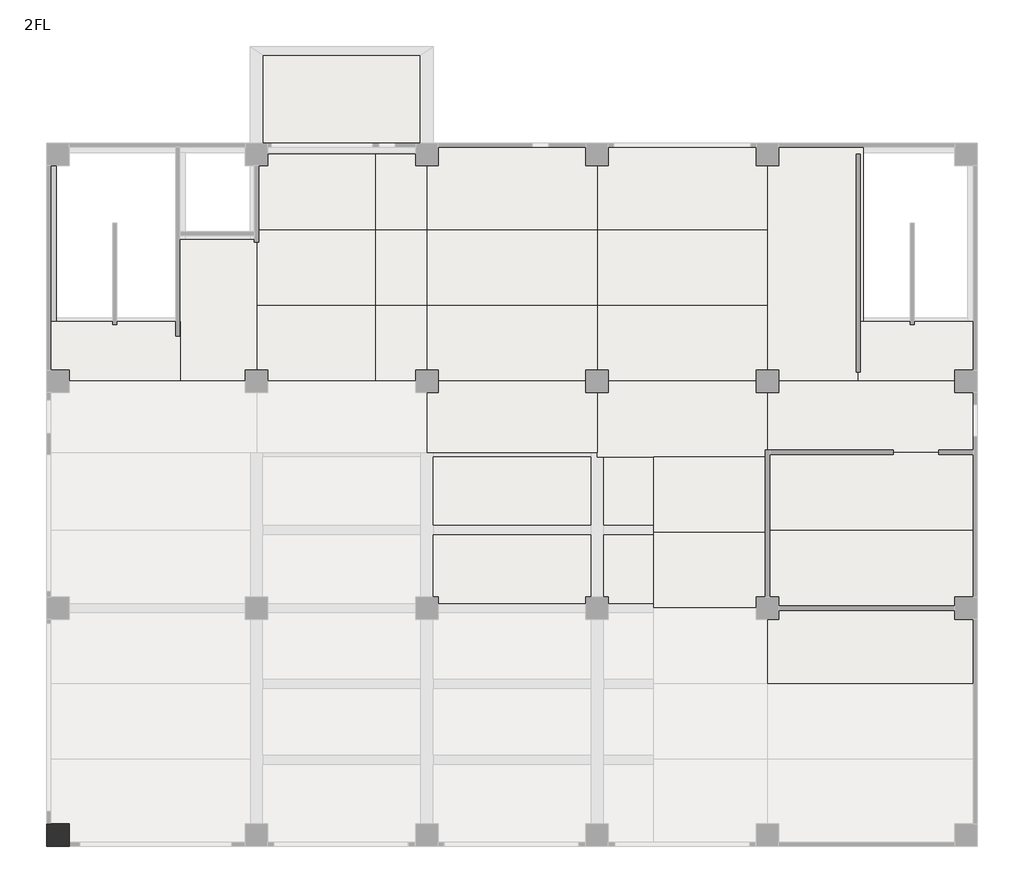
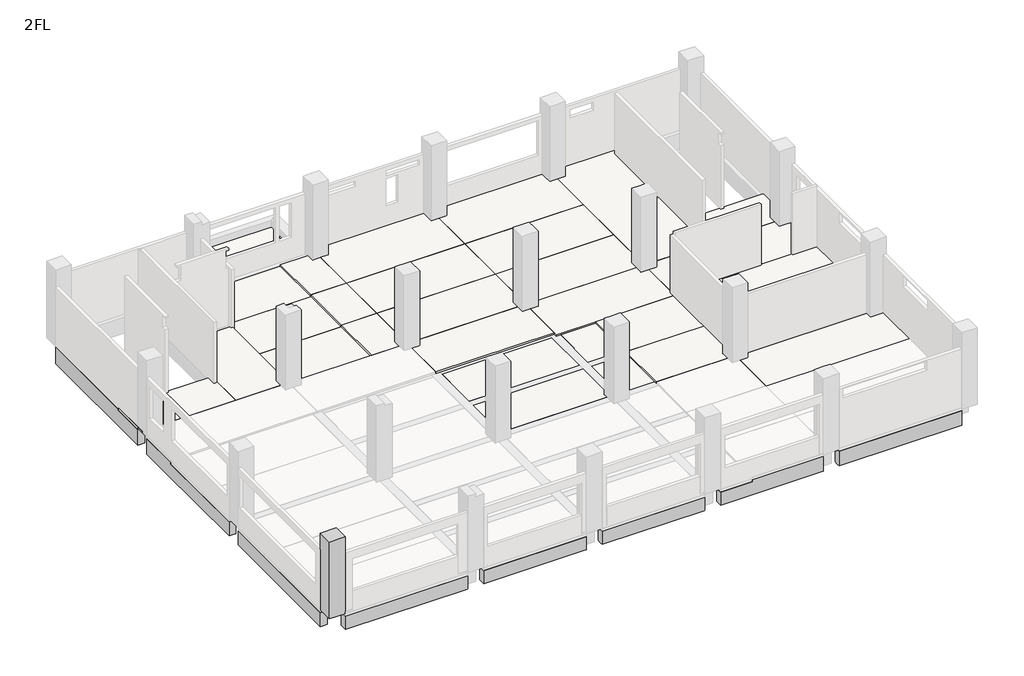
# One storey, part 2 of 4: 29 slabs, 9 beams, 1 column.
"""IFC4 building model written with IfcOpenShell, lengths in millimetres."""

from ifc_helpers import new_model, si_unit, frame, origin, place, context, project, spatial, polyline, outline, extrude, faceted_brep, element, save

model = new_model("IFC4")

# Units and contexts
model_context = context("Model", 3, world=origin())
ifc_project = project(units=[si_unit("LENGTHUNIT", "METRE", prefix="MILLI")], contexts=[model_context])

# Site, building, storey
site = spatial("IfcSite", under=ifc_project)
building = spatial("IfcBuilding", under=site)
storey = spatial("IfcBuildingStorey", under=building, Name="2FL", Elevation=4100.0)

# Beams
placement = place(None, origin())
element("IfcBeam", 1, ObjectType="RC_B : 2G1", at=placement, inside=storey, context=model_context, shape_type="Brep", body=[
    faceted_brep([(6600.0, -50.0, 3150.0), (400.0, -50.0, 3150.0), (400.0, -50.0, 3850.0), (6600.0, -50.0, 3850.0), (6600.0, -400.0, 3150.0), (6575.0, -400.0, 3150.0), (425.0, -400.0, 3150.0), (400.0, -400.0, 3150.0), (6600.0, -400.0, 3850.0), (400.0, -400.0, 3850.0)], [[[0, 1, 2, 3]], [[0, 4, 5, 6, 7, 1]], [[7, 6, 5, 4, 8, 9]], [[4, 0, 3, 8]], [[1, 7, 9, 2]], [[3, 2, 9, 8]]]),
])
element("IfcBeam", 2, ObjectType="RC_B : 2G1", at=placement, inside=storey, context=model_context, shape_type="Brep", body=[
    faceted_brep([(12600.0, -50.0, 3150.0), (7400.0, -50.0, 3150.0), (7400.0, -50.0, 3850.0), (12600.0, -50.0, 3850.0), (12600.0, -400.0, 3150.0), (12575.0, -400.0, 3150.0), (7400.0, -400.0, 3150.0), (7400.0, -250.0, 3150.0), (12600.0, -400.0, 3850.0), (7400.0, -400.0, 3850.0)], [[[0, 1, 2, 3]], [[0, 4, 5, 6, 7, 1]], [[6, 5, 4, 8, 9]], [[4, 0, 3, 8]], [[1, 7, 6, 9, 2]], [[3, 2, 9, 8]]]),
])
element("IfcBeam", 3, ObjectType="RC_B : 2G1", at=placement, inside=storey, context=model_context, shape_type="Brep", body=[
    faceted_brep([(18600.0, -50.0, 3150.0), (13400.0, -50.0, 3150.0), (13400.0, -50.0, 3850.0), (18600.0, -50.0, 3850.0), (18600.0, -400.0, 3150.0), (18575.0, -400.0, 3150.0), (13400.0, -400.0, 3150.0), (13400.0, -250.0, 3150.0), (18600.0, -400.0, 3850.0), (13400.0, -400.0, 3850.0)], [[[0, 1, 2, 3]], [[0, 4, 5, 6, 7, 1]], [[6, 5, 4, 8, 9]], [[4, 0, 3, 8]], [[1, 7, 6, 9, 2]], [[3, 2, 9, 8]]]),
])
element("IfcBeam", 4, ObjectType="RC_B : 2G1", at=placement, inside=storey, context=model_context, shape_type="Brep", body=[
    faceted_brep([(24600.0, -50.0, 3150.0), (19400.0, -50.0, 3150.0), (19400.0, -50.0, 3850.0), (20998.0, -50.0, 3850.0), (20998.0, -50.0, 3940.0), (24600.0, -50.0, 3940.0), (24600.0, -400.0, 3150.0), (24575.0, -400.0, 3150.0), (19400.0, -400.0, 3150.0), (19400.0, -250.0, 3150.0), (24600.0, -400.0, 3940.0), (20998.0, -400.0, 3940.0), (20998.0, -400.0, 3850.0), (19400.0, -400.0, 3850.0)], [[[0, 1, 2, 3, 4, 5]], [[0, 6, 7, 8, 9, 1]], [[8, 7, 6, 10, 11, 12, 13]], [[6, 0, 5, 10]], [[1, 9, 8, 13, 2]], [[12, 3, 2, 13]], [[3, 12, 11, 4]], [[5, 4, 11, 10]]]),
])
element("IfcBeam", 5, ObjectType="RC_B : 2G1", at=placement, inside=storey, context=model_context, shape_type="Brep", body=[
    faceted_brep([(31600.0, -50.0, 3150.0), (25400.0, -50.0, 3150.0), (25400.0, -50.0, 3940.0), (31600.0, -50.0, 3940.0), (31600.0, -250.0, 3150.0), (31600.0, -400.0, 3150.0), (25400.0, -400.0, 3150.0), (25400.0, -250.0, 3150.0), (31600.0, -400.0, 3940.0), (25400.0, -400.0, 3940.0)], [[[0, 1, 2, 3]], [[0, 4, 5, 6, 7, 1]], [[6, 5, 8, 9]], [[5, 4, 0, 3, 8]], [[1, 7, 6, 9, 2]], [[3, 2, 9, 8]]]),
])
element("IfcBeam", 6, ObjectType="RC_B : 2G11", at=placement, inside=storey, context=model_context, shape_type="Brep", body=[
    faceted_brep([(-400.0, 7600.0, 3100.0), (-400.0, 400.0, 3100.0), (-400.0, 400.0, 3850.0), (-400.0, 2664.0, 3850.0), (-400.0, 5328.0, 3850.0), (-400.0, 7600.0, 3850.0), (-250.0, 7600.0, 3100.0), (-50.0, 7600.0, 3100.0), (-50.0, 400.0, 3100.0), (-250.0, 400.0, 3100.0), (-50.0, 7600.0, 3850.0), (-50.0, 5505.0, 3850.0), (-50.0, 5155.0, 3850.0), (-50.0, 2835.0, 3850.0), (-50.0, 2485.0, 3850.0), (-50.0, 400.0, 3850.0)], [[[0, 1, 2, 3, 4, 5]], [[0, 6, 7, 8, 9, 1]], [[8, 7, 10, 11, 12, 13, 14, 15]], [[7, 6, 0, 5, 10]], [[1, 9, 8, 15, 2]], [[2, 15, 14, 13, 12, 11, 10, 5, 4, 3]]]),
])
element("IfcBeam", 7, ObjectType="RC_B : 2G11", at=placement, inside=storey, context=model_context, shape_type="Brep", body=[
    faceted_brep([(-400.0, 15600.0, 3940.0), (-400.0, 15600.0, 3100.0), (-400.0, 15292.5, 3100.0), (-400.0, 14112.5, 3100.0), (-400.0, 8400.0, 3100.0), (-400.0, 8400.0, 3850.0), (-400.0, 10748.0, 3850.0), (-400.0, 13496.0, 3850.0), (-400.0, 13496.0, 3940.0), (-250.0, 15600.0, 3100.0), (-50.0, 15600.0, 3100.0), (-50.0, 8400.0, 3100.0), (-250.0, 8400.0, 3100.0), (-50.0, 15600.0, 3940.0), (-50.0, 13675.0, 3940.0), (-50.0, 13496.0, 3940.0), (-50.0, 13496.0, 3850.0), (-50.0, 13325.0, 3850.0), (-50.0, 10925.0, 3850.0), (-50.0, 10575.0, 3850.0), (-50.0, 8400.0, 3850.0)], [[[0, 1, 2, 3, 4, 5, 6, 7, 8]], [[1, 9, 10, 11, 12, 4, 3, 2]], [[10, 13, 14, 15, 16, 17, 18, 19, 20, 11]], [[10, 9, 1, 0, 13]], [[0, 8, 15, 14, 13]], [[4, 12, 11, 20, 5]], [[16, 7, 6, 5, 20, 19, 18, 17]], [[7, 16, 15, 8]]]),
])
element("IfcBeam", 8, ObjectType="RC_B : 2G11", at=placement, inside=storey, context=model_context, shape_type="Brep", body=[
    faceted_brep([(-400.0, 23600.0, 4000.0), (-400.0, 23600.0, 3100.0), (-400.0, 16400.0, 3100.0), (-400.0, 16400.0, 3940.0), (-400.0, 18100.0, 3940.0), (-400.0, 18100.0, 4000.0), (-250.0, 23600.0, 3100.0), (-50.0, 23600.0, 3100.0), (-50.0, 16400.0, 3100.0), (-250.0, 16400.0, 3100.0), (-50.0, 23600.0, 4000.0), (-50.0, 18225.0, 4000.0), (-50.0, 18100.0, 4000.0), (-50.0, 18100.0, 3940.0), (-50.0, 17975.0, 3940.0), (-50.0, 16400.0, 3940.0), (-250.0, 23600.0, 4000.0), (-250.0, 18100.0, 4000.0)], [[[0, 1, 2, 3, 4, 5]], [[1, 6, 7, 8, 9, 2]], [[7, 10, 11, 12, 13, 14, 15, 8]], [[10, 16, 0, 5, 17, 12, 11]], [[1, 0, 16, 10, 7, 6]], [[13, 4, 3, 15, 14]], [[4, 13, 12, 17, 5]], [[3, 2, 9, 8, 15]]]),
])
element("IfcBeam", 9, ObjectType="RC_B : B1", at=placement, inside=storey, context=model_context, shape_type="Brep", body=[
    faceted_brep([(6775.0, 2835.0, 3250.0), (-50.0, 2835.0, 3250.0), (-50.0, 2835.0, 3850.0), (6775.0, 2835.0, 3850.0), (6775.0, 2485.0, 3250.0), (-50.0, 2485.0, 3250.0), (6775.0, 2485.0, 3850.0), (-50.0, 2485.0, 3850.0), (6775.0, 2664.0, 3850.0)], [[[0, 1, 2, 3]], [[0, 4, 5, 1]], [[5, 4, 6, 7]], [[4, 0, 3, 8, 6]], [[1, 5, 7, 2]], [[3, 2, 7, 6, 8]]]),
])

# Column
element("IfcColumn", 10, ObjectType="RC_C_B : 2C2", at=placement, inside=storey, context=model_context, shape_type="Brep", body=[
    faceted_brep([(400.0, 400.0, 4000.0), (400.0, -250.0, 4000.0), (400.0, -400.0, 4000.0), (-400.0, -400.0, 4000.0), (-400.0, 400.0, 4000.0), (-250.0, 400.0, 4000.0), (400.0, 400.0, 8100.0), (400.0, -400.0, 8100.0), (400.0, -400.0, 7950.0), (400.0, -400.0, 7250.0), (400.0, -400.0, 4100.0), (400.0, 400.0, 7950.0), (-400.0, -400.0, 8100.0), (-400.0, 400.0, 8100.0), (-400.0, 400.0, 7950.0), (-400.0, 400.0, 7200.0)], [[[0, 1, 2, 3, 4, 5]], [[6, 7, 8, 9, 10, 2, 1, 0, 11]], [[7, 12, 3, 2, 10, 9, 8]], [[12, 13, 14, 15, 4, 3]], [[13, 6, 11, 0, 5, 4, 15, 14]], [[6, 13, 12, 7]]]),
])

# Slabs
element("IfcSlab", 11, ObjectType="S1", at=placement, inside=storey, context=model_context, shape_type="Brep", body=[
    faceted_brep([(32400.0, 5328.0, 3940.0), (25000.0, 5328.0, 3940.0), (25000.0, 5505.0, 3940.0), (25000.0, 7600.0, 3940.0), (25225.0, 7600.0, 3940.0), (25400.0, 7600.0, 3940.0), (25400.0, 8000.0, 3940.0), (31600.0, 8000.0, 3940.0), (31600.0, 7825.0, 3940.0), (31600.0, 7600.0, 3940.0), (32050.0, 7600.0, 3940.0), (32400.0, 7600.0, 3940.0), (25000.0, 5328.0, 4090.0), (32400.0, 5328.0, 4090.0), (32400.0, 7600.0, 4090.0), (32250.0, 7600.0, 4090.0), (31600.0, 7600.0, 4090.0), (31600.0, 8000.0, 4090.0), (25400.0, 8000.0, 4090.0), (25400.0, 7600.0, 4090.0), (25000.0, 7600.0, 4090.0), (25000.0, 5333.0, 4090.0), (32400.0, 7600.0, 4000.0), (25400.0, 7600.0, 4000.0), (31600.0, 7600.0, 4000.0)], [[[0, 1, 2, 3, 4, 5, 6, 7, 8, 9, 10, 11]], [[12, 13, 14, 15, 16, 17, 18, 19, 20, 21]], [[13, 0, 11, 22, 14]], [[1, 0, 13, 12]], [[1, 12, 21, 20, 3, 2]], [[6, 18, 17, 7]], [[6, 5, 23, 19, 18]], [[5, 4, 3, 20, 19, 23]], [[16, 15, 14, 22, 11, 10, 9, 24]], [[16, 24, 9, 8, 7, 17]]]),
])
element("IfcSlab", 12, ObjectType="S1", at=placement, inside=storey, context=model_context, shape_type="Brep", body=[
    faceted_brep([(25400.0, 16000.0, 3940.0), (25400.0, 16400.0, 3940.0), (25000.0, 16400.0, 3940.0), (25000.0, 18495.0, 3940.0), (25000.0, 18845.0, 3940.0), (25000.0, 21328.0, 3940.0), (25000.0, 23600.0, 3940.0), (25225.0, 23600.0, 3940.0), (25400.0, 23600.0, 3940.0), (25400.0, 24050.0, 3940.0), (25400.0, 24400.0, 3940.0), (28374.0, 24400.0, 3940.0), (28374.0, 24050.0, 3940.0), (28374.0, 18100.0, 3940.0), (28199.0, 18100.0, 3940.0), (28199.0, 16087.7, 3940.0), (28199.0, 16000.0, 3940.0), (28374.0, 24400.0, 4090.0), (25400.0, 24400.0, 4090.0), (25000.0, 24400.0, 4090.0), (25000.0, 21328.0, 4090.0), (25000.0, 18664.0, 4090.0), (25000.0, 16400.0, 4090.0), (25400.0, 16400.0, 4090.0), (25400.0, 16000.0, 4090.0), (28199.0, 16000.0, 4090.0), (28199.0, 18100.0, 4090.0), (28374.0, 18100.0, 4090.0), (28374.0, 24250.0, 4090.0), (25000.0, 24400.0, 4000.0), (25000.0, 23600.0, 4000.0), (28374.0, 24400.0, 4000.0), (25400.0, 24400.0, 4000.0), (28374.0, 18100.0, 4000.0), (25400.0, 16400.0, 4000.0), (25400.0, 23600.0, 4000.0), (28199.0, 18100.0, 4000.0)], [[[0, 1, 2, 3, 4, 5, 6, 7, 8, 9, 10, 11, 12, 13, 14, 15, 16]], [[17, 18, 19, 20, 21, 22, 23, 24, 25, 26, 27, 28]], [[24, 0, 16, 25]], [[22, 21, 20, 19, 29, 30, 6, 5, 4, 3, 2]], [[19, 18, 17, 31, 11, 10, 32, 29]], [[11, 31, 17, 28, 27, 33, 13, 12]], [[1, 0, 24, 23, 34]], [[2, 1, 34, 23, 22]], [[35, 32, 10, 9, 8]], [[35, 8, 7, 6, 30]], [[32, 35, 30, 29]], [[14, 36, 26, 25, 16, 15]], [[26, 36, 14, 13, 33, 27]]]),
])
element("IfcSlab", 13, ObjectType="S1", at=placement, inside=storey, context=model_context, shape_type="Brep", body=[
    faceted_brep([(19400.0, 8175.0, 3850.0), (19400.0, 8400.0, 3850.0), (19225.0, 8400.0, 3850.0), (19225.0, 10575.0, 3850.0), (20998.0, 10575.0, 3850.0), (20998.0, 8175.0, 3850.0), (19400.0, 8400.0, 4000.0), (19400.0, 8175.0, 4000.0), (20998.0, 8175.0, 4000.0), (20998.0, 10575.0, 4000.0), (19225.0, 10575.0, 4000.0), (19225.0, 8400.0, 4000.0), (20998.0, 8175.0, 3940.0)], [[[0, 1, 2, 3, 4, 5]], [[6, 7, 8, 9, 10, 11]], [[8, 12, 5, 4, 9]], [[6, 1, 0, 7]], [[1, 6, 11, 2]], [[0, 5, 12, 8, 7]], [[2, 11, 10, 3]], [[4, 3, 10, 9]]]),
])
element("IfcSlab", 14, ObjectType="S1", at=placement, inside=storey, context=model_context, shape_type="Brep", body=[
    faceted_brep([(24600.0, 8000.0, 3940.0), (20998.0, 8000.0, 3940.0), (20998.0, 8175.0, 3940.0), (20998.0, 10575.0, 3940.0), (24775.0, 10575.0, 3940.0), (24912.3, 10575.0, 3940.0), (24912.3, 10664.0, 3940.0), (25000.0, 10664.0, 3940.0), (25000.0, 8400.0, 3940.0), (24600.0, 8400.0, 3940.0), (24600.0, 8175.0, 3940.0), (20998.0, 10664.0, 4090.0), (20998.0, 8000.0, 4090.0), (24600.0, 8000.0, 4090.0), (24600.0, 8400.0, 4090.0), (25000.0, 8400.0, 4090.0), (25000.0, 10664.0, 4090.0), (20998.0, 10664.0, 4000.0), (20998.0, 10575.0, 4000.0), (24912.3, 10664.0, 4000.0), (24600.0, 8400.0, 4000.0), (24912.3, 10575.0, 4000.0)], [[[0, 1, 2, 3, 4, 5, 6, 7, 8, 9, 10]], [[11, 12, 13, 14, 15, 16]], [[12, 1, 0, 13]], [[12, 11, 17, 18, 3, 2, 1]], [[11, 16, 7, 6, 19, 17]], [[7, 16, 15, 8]], [[0, 10, 9, 20, 14, 13]], [[9, 8, 15, 14, 20]], [[18, 21, 5, 4, 3]], [[21, 18, 17, 19]], [[5, 21, 19, 6]]]),
])
element("IfcSlab", 15, ObjectType="S1", at=placement, inside=storey, context=model_context, shape_type="Brep", body=[
    faceted_brep([(20998.0, 10925.0, 3850.0), (19225.0, 10925.0, 3850.0), (19225.0, 13325.0, 3850.0), (20998.0, 13325.0, 3850.0), (19225.0, 10925.0, 4000.0), (20998.0, 10925.0, 4000.0), (20998.0, 13325.0, 4000.0), (19225.0, 13325.0, 4000.0), (20998.0, 10925.0, 3940.0), (20998.0, 13325.0, 3940.0)], [[[0, 1, 2, 3]], [[4, 5, 6, 7]], [[5, 8, 0, 3, 9, 6]], [[1, 4, 7, 2]], [[1, 0, 8, 5, 4]], [[3, 2, 7, 6, 9]]]),
])
element("IfcSlab", 16, ObjectType="S1", at=placement, inside=storey, context=model_context, shape_type="Brep", body=[
    faceted_brep([(25000.0, 13328.0, 3940.0), (25000.0, 10748.0, 3940.0), (25000.0, 10664.0, 3940.0), (24912.3, 10664.0, 3940.0), (24912.3, 10925.0, 3940.0), (24775.0, 10925.0, 3940.0), (20998.0, 10925.0, 3940.0), (20998.0, 13325.0, 3940.0), (24775.0, 13325.0, 3940.0), (24912.3, 13325.0, 3940.0), (24912.3, 13328.0, 3940.0), (25000.0, 10664.0, 4090.0), (25000.0, 10748.0, 4090.0), (25000.0, 13328.0, 4090.0), (20998.0, 13328.0, 4090.0), (20998.0, 10664.0, 4090.0), (20998.0, 10664.0, 4000.0), (24912.3, 10664.0, 4000.0), (20998.0, 13328.0, 4000.0), (20998.0, 13325.0, 4000.0), (20998.0, 10925.0, 4000.0), (24912.3, 13328.0, 4000.0), (24912.3, 10925.0, 4000.0), (24912.3, 13325.0, 4000.0)], [[[0, 1, 2, 3, 4, 5, 6, 7, 8, 9, 10]], [[11, 12, 13, 14, 15]], [[2, 1, 0, 13, 12, 11]], [[11, 15, 16, 17, 3, 2]], [[15, 14, 18, 19, 7, 6, 20, 16]], [[14, 13, 0, 10, 21, 18]], [[6, 5, 4, 22, 20]], [[19, 23, 9, 8, 7]], [[17, 16, 20, 22]], [[23, 19, 18, 21]], [[22, 4, 3, 17]], [[9, 23, 21, 10]]]),
])
element("IfcSlab", 17, ObjectType="S1", at=placement, inside=storey, context=model_context, shape_type="Brep", body=[
    faceted_brep([(25000.0, 10748.0, 3940.0), (32400.0, 10748.0, 3940.0), (32400.0, 8400.0, 3940.0), (32050.0, 8400.0, 3940.0), (31600.0, 8400.0, 3940.0), (31600.0, 8175.0, 3940.0), (31600.0, 8000.0, 3940.0), (25400.0, 8000.0, 3940.0), (25400.0, 8400.0, 3940.0), (25000.0, 8400.0, 3940.0), (25000.0, 10664.0, 3940.0), (32400.0, 10748.0, 4090.0), (25000.0, 10748.0, 4090.0), (25000.0, 10664.0, 4090.0), (25000.0, 8400.0, 4090.0), (25400.0, 8400.0, 4090.0), (25400.0, 8000.0, 4090.0), (31600.0, 8000.0, 4090.0), (31600.0, 8400.0, 4090.0), (32250.0, 8400.0, 4090.0), (32400.0, 8400.0, 4090.0), (32400.0, 8400.0, 4000.0), (25400.0, 8400.0, 4000.0), (31600.0, 8400.0, 4000.0)], [[[0, 1, 2, 3, 4, 5, 6, 7, 8, 9, 10]], [[11, 12, 13, 14, 15, 16, 17, 18, 19, 20]], [[16, 7, 6, 17]], [[12, 0, 10, 9, 14, 13]], [[1, 0, 12, 11]], [[1, 11, 20, 21, 2]], [[8, 7, 16, 15, 22]], [[9, 8, 22, 15, 14]], [[18, 17, 6, 5, 4, 23]], [[18, 23, 4, 3, 2, 21, 20, 19]]]),
])
element("IfcSlab", 18, ObjectType="S1", at=placement, inside=storey, context=model_context, shape_type="Brep", body=[
    faceted_brep([(32400.0, 13496.0, 3940.0), (32400.0, 10748.0, 3940.0), (25000.0, 10748.0, 3940.0), (25000.0, 13328.0, 3940.0), (25000.0, 13496.0, 3940.0), (32400.0, 13496.0, 4090.0), (25000.0, 13496.0, 4090.0), (25000.0, 13328.0, 4090.0), (25000.0, 10748.0, 4090.0), (32400.0, 10748.0, 4090.0)], [[[0, 1, 2, 3, 4]], [[5, 6, 7, 8, 9]], [[1, 0, 5, 9]], [[2, 1, 9, 8]], [[4, 3, 2, 8, 7, 6]], [[0, 4, 6, 5]]]),
])
element("IfcSlab", 19, ObjectType="S2", at=placement, inside=storey, context=model_context, shape_type="Brep", body=[
    faceted_brep([(13400.0, 15600.0, 3940.0), (13400.0, 16000.0, 3940.0), (18600.0, 16000.0, 3940.0), (18600.0, 15825.0, 3940.0), (18600.0, 15600.0, 3940.0), (18775.0, 15600.0, 3940.0), (18775.0, 13675.0, 3940.0), (13225.0, 13675.0, 3940.0), (13225.0, 15600.0, 3940.0), (13000.0, 13496.0, 4090.0), (19000.0, 13496.0, 4090.0), (19000.0, 15600.0, 4090.0), (18600.0, 15600.0, 4090.0), (18600.0, 16000.0, 4090.0), (13400.0, 16000.0, 4090.0), (13400.0, 15600.0, 4090.0), (13000.0, 15600.0, 4090.0), (19000.0, 13496.0, 4000.0), (19000.0, 15600.0, 4000.0), (13000.0, 13496.0, 4000.0), (13000.0, 15600.0, 4000.0), (13400.0, 16000.0, 4000.0), (18600.0, 16000.0, 4000.0), (13400.0, 15600.0, 4000.0), (13225.0, 15600.0, 4000.0), (18775.0, 15600.0, 4000.0), (18600.0, 15600.0, 4000.0), (18775.0, 13675.0, 4000.0), (13225.0, 13675.0, 4000.0)], [[[0, 1, 2, 3, 4, 5, 6, 7, 8]], [[9, 10, 11, 12, 13, 14, 15, 16]], [[11, 10, 17, 18]], [[10, 9, 19, 17]], [[9, 16, 20, 19]], [[1, 21, 14, 13, 22, 2]], [[1, 0, 23, 15, 14, 21]], [[16, 15, 23, 0, 8, 24, 20]], [[12, 11, 18, 25, 5, 4, 26]], [[4, 3, 2, 22, 13, 12, 26]], [[6, 27, 28, 7]], [[20, 24, 28, 27, 25, 18, 17, 19]], [[25, 27, 6, 5]], [[28, 24, 8, 7]]]),
])
element("IfcSlab", 20, ObjectType="S2", at=placement, inside=storey, context=model_context, shape_type="Brep", body=[
    faceted_brep([(19400.0, 15600.0, 3940.0), (19400.0, 16000.0, 3940.0), (24600.0, 16000.0, 3940.0), (24600.0, 15825.0, 3940.0), (24600.0, 15600.0, 3940.0), (24775.0, 15600.0, 3940.0), (25000.0, 15600.0, 3940.0), (25000.0, 13496.0, 3940.0), (25000.0, 13328.0, 3940.0), (24912.3, 13328.0, 3940.0), (24912.3, 13675.0, 3940.0), (24775.0, 13675.0, 3940.0), (19225.0, 13675.0, 3940.0), (19225.0, 15600.0, 3940.0), (19000.0, 13328.0, 4090.0), (20998.0, 13328.0, 4090.0), (25000.0, 13328.0, 4090.0), (25000.0, 13496.0, 4090.0), (25000.0, 15600.0, 4090.0), (24600.0, 15600.0, 4090.0), (24600.0, 16000.0, 4090.0), (19400.0, 16000.0, 4090.0), (19400.0, 15600.0, 4090.0), (19000.0, 15600.0, 4090.0), (19000.0, 13496.0, 4090.0), (19000.0, 13328.0, 4000.0), (20998.0, 13328.0, 4000.0), (24912.3, 13328.0, 4000.0), (19000.0, 15600.0, 4000.0), (19000.0, 13496.0, 4000.0), (19400.0, 15600.0, 4000.0), (19225.0, 15600.0, 4000.0), (24600.0, 15600.0, 4000.0), (24912.3, 13675.0, 4000.0), (19225.0, 13675.0, 4000.0)], [[[0, 1, 2, 3, 4, 5, 6, 7, 8, 9, 10, 11, 12, 13]], [[14, 15, 16, 17, 18, 19, 20, 21, 22, 23, 24]], [[16, 8, 7, 6, 18, 17]], [[16, 15, 14, 25, 26, 27, 9, 8]], [[14, 24, 23, 28, 29, 25]], [[1, 21, 20, 2]], [[1, 0, 30, 22, 21]], [[23, 22, 30, 0, 13, 31, 28]], [[6, 5, 4, 32, 19, 18]], [[4, 3, 2, 20, 19, 32]], [[10, 33, 34, 12, 11]], [[28, 31, 34, 33, 27, 26, 25, 29]], [[33, 10, 9, 27]], [[34, 31, 13, 12]]]),
])
element("IfcSlab", 21, ObjectType="S2", at=placement, inside=storey, context=model_context, shape_type="Brep", body=[
    faceted_brep([(32400.0, 13496.0, 3940.0), (25000.0, 13496.0, 3940.0), (25000.0, 15600.0, 3940.0), (25225.0, 15600.0, 3940.0), (25400.0, 15600.0, 3940.0), (25400.0, 16000.0, 3940.0), (28199.0, 16000.0, 3940.0), (31600.0, 16000.0, 3940.0), (31600.0, 15825.0, 3940.0), (31600.0, 15600.0, 3940.0), (32050.0, 15600.0, 3940.0), (32400.0, 15600.0, 3940.0), (25000.0, 13496.0, 4090.0), (32400.0, 13496.0, 4090.0), (32400.0, 15600.0, 4090.0), (32250.0, 15600.0, 4090.0), (31600.0, 15600.0, 4090.0), (31600.0, 16000.0, 4090.0), (28199.0, 16000.0, 4090.0), (25400.0, 16000.0, 4090.0), (25400.0, 15600.0, 4090.0), (25000.0, 15600.0, 4090.0), (32400.0, 15600.0, 4000.0), (25400.0, 15600.0, 4000.0), (31600.0, 15600.0, 4000.0)], [[[0, 1, 2, 3, 4, 5, 6, 7, 8, 9, 10, 11]], [[12, 13, 14, 15, 16, 17, 18, 19, 20, 21]], [[13, 0, 11, 22, 14]], [[1, 0, 13, 12]], [[1, 12, 21, 2]], [[5, 19, 18, 17, 7, 6]], [[5, 4, 23, 20, 19]], [[4, 3, 2, 21, 20, 23]], [[16, 15, 14, 22, 11, 10, 9, 24]], [[16, 24, 9, 8, 7, 17]]]),
])
element("IfcSlab", 22, ObjectType="S2", at=placement, inside=storey, context=model_context, shape_type="Brep", body=[
    faceted_brep([(7000.0, 18664.0, 3850.0), (11200.0, 18664.0, 3850.0), (11200.0, 18495.0, 3850.0), (11200.0, 16175.0, 3850.0), (11200.0, 16000.0, 3850.0), (7400.0, 16000.0, 3850.0), (7400.0, 16400.0, 3850.0), (7000.0, 16400.0, 3850.0), (11200.0, 18664.0, 4000.0), (7000.0, 18664.0, 4000.0), (7000.0, 16400.0, 4000.0), (7400.0, 16400.0, 4000.0), (7400.0, 16000.0, 4000.0), (11200.0, 16000.0, 4000.0), (11200.0, 16000.0, 3940.0), (7400.0, 16000.0, 3940.0), (7000.0, 16400.0, 3940.0), (11200.0, 18664.0, 3940.0)], [[[0, 1, 2, 3, 4, 5, 6, 7]], [[8, 9, 10, 11, 12, 13]], [[4, 14, 13, 12, 15, 5]], [[9, 0, 7, 16, 10]], [[1, 0, 9, 8, 17]], [[4, 3, 2, 1, 17, 8, 13, 14]], [[11, 6, 5, 15, 12]], [[6, 11, 10, 16, 7]]]),
])
element("IfcSlab", 23, ObjectType="S2", at=placement, inside=storey, context=model_context, shape_type="Brep", body=[
    faceted_brep([(13000.0, 21328.0, 3940.0), (13000.0, 18664.0, 3940.0), (11200.0, 18664.0, 3940.0), (11200.0, 18845.0, 3940.0), (11200.0, 21165.0, 3940.0), (11200.0, 21328.0, 3940.0), (13000.0, 21328.0, 4090.0), (11200.0, 21328.0, 4090.0), (11200.0, 18664.0, 4090.0), (13000.0, 18664.0, 4090.0), (13000.0, 21328.0, 4000.0), (13000.0, 18664.0, 4000.0), (11200.0, 18664.0, 4000.0), (11200.0, 21328.0, 4000.0)], [[[0, 1, 2, 3, 4, 5]], [[6, 7, 8, 9]], [[1, 0, 10, 6, 9, 11]], [[2, 1, 11, 9, 8, 12]], [[5, 4, 3, 2, 12, 8, 7, 13]], [[0, 5, 13, 7, 6, 10]]]),
])
element("IfcSlab", 24, ObjectType="S2", at=placement, inside=storey, context=model_context, shape_type="Brep", body=[
    faceted_brep([(13000.0, 21328.0, 3940.0), (11200.0, 21328.0, 3940.0), (11200.0, 21515.0, 3940.0), (11200.0, 24000.0, 3940.0), (12600.0, 24000.0, 3940.0), (12600.0, 23600.0, 3940.0), (12775.0, 23600.0, 3940.0), (13000.0, 23600.0, 3940.0), (11200.0, 21328.0, 4090.0), (13000.0, 21328.0, 4090.0), (13000.0, 23600.0, 4090.0), (12600.0, 23600.0, 4090.0), (12600.0, 24000.0, 4090.0), (11200.0, 24000.0, 4090.0), (13000.0, 21328.0, 4000.0), (13000.0, 23600.0, 4000.0), (11200.0, 21328.0, 4000.0), (11200.0, 24000.0, 4000.0), (12600.0, 23600.0, 4000.0)], [[[0, 1, 2, 3, 4, 5, 6, 7]], [[8, 9, 10, 11, 12, 13]], [[9, 14, 0, 7, 15, 10]], [[1, 0, 14, 9, 8, 16]], [[3, 2, 1, 16, 8, 13, 17]], [[3, 17, 13, 12, 4]], [[11, 10, 15, 7, 6, 5, 18]], [[11, 18, 5, 4, 12]]]),
])
element("IfcSlab", 25, ObjectType="S2", at=placement, inside=storey, context=model_context, shape_type="Brep", body=[
    faceted_brep([(18600.0, 16400.0, 3940.0), (18600.0, 16175.0, 3940.0), (13400.0, 16175.0, 3940.0), (13400.0, 16400.0, 3940.0), (13225.0, 16400.0, 3940.0), (13225.0, 18495.0, 3940.0), (18775.0, 18495.0, 3940.0), (18775.0, 16400.0, 3940.0), (19000.0, 18664.0, 4090.0), (13000.0, 18664.0, 4090.0), (13000.0, 16400.0, 4090.0), (13400.0, 16400.0, 4090.0), (13400.0, 16000.0, 4090.0), (18600.0, 16000.0, 4090.0), (18600.0, 16400.0, 4090.0), (19000.0, 16400.0, 4090.0), (13400.0, 16000.0, 4000.0), (18600.0, 16000.0, 4000.0), (13000.0, 18664.0, 4000.0), (13000.0, 16400.0, 4000.0), (19000.0, 18664.0, 4000.0), (19000.0, 16400.0, 4000.0), (13400.0, 16175.0, 4000.0), (13400.0, 16400.0, 4000.0), (13225.0, 16400.0, 4000.0), (18600.0, 16400.0, 4000.0), (18600.0, 16175.0, 4000.0), (18775.0, 16400.0, 4000.0), (13225.0, 18495.0, 4000.0), (18775.0, 18495.0, 4000.0)], [[[0, 1, 2, 3, 4, 5, 6, 7]], [[8, 9, 10, 11, 12, 13, 14, 15]], [[16, 17, 13, 12]], [[10, 9, 18, 19]], [[9, 8, 20, 18]], [[8, 15, 21, 20]], [[3, 2, 22, 16, 12, 11, 23]], [[4, 3, 23, 11, 10, 19, 24]], [[1, 0, 25, 14, 13, 17, 26]], [[0, 7, 27, 21, 15, 14, 25]], [[2, 1, 26, 22]], [[17, 16, 22, 26]], [[4, 24, 28, 5]], [[21, 27, 29, 28, 24, 19, 18, 20]], [[27, 7, 6, 29]], [[28, 29, 6, 5]]]),
])
element("IfcSlab", 26, ObjectType="S2", at=placement, inside=storey, context=model_context, shape_type="Brep", body=[
    faceted_brep([(18775.0, 18845.0, 3940.0), (13225.0, 18845.0, 3940.0), (13225.0, 21165.0, 3940.0), (18775.0, 21165.0, 3940.0), (19000.0, 18664.0, 4090.0), (19000.0, 21328.0, 4090.0), (13000.0, 21328.0, 4090.0), (13000.0, 18664.0, 4090.0), (19000.0, 18664.0, 4000.0), (19000.0, 21328.0, 4000.0), (13000.0, 18664.0, 4000.0), (13000.0, 21328.0, 4000.0), (13225.0, 18845.0, 4000.0), (13225.0, 21165.0, 4000.0), (18775.0, 18845.0, 4000.0), (18775.0, 21165.0, 4000.0)], [[[0, 1, 2, 3]], [[4, 5, 6, 7]], [[5, 4, 8, 9]], [[4, 7, 10, 8]], [[7, 6, 11, 10]], [[6, 5, 9, 11]], [[1, 12, 13, 2]], [[8, 10, 11, 9], [14, 15, 13, 12]], [[14, 0, 3, 15]], [[1, 0, 14, 12]], [[13, 15, 3, 2]]]),
])
element("IfcSlab", 27, ObjectType="S2", at=placement, inside=storey, context=model_context, shape_type="Brep", body=[
    faceted_brep([(13400.0, 23600.0, 3940.0), (13400.0, 24050.0, 3940.0), (13400.0, 24400.0, 3940.0), (18600.0, 24400.0, 3940.0), (18600.0, 24050.0, 3940.0), (18600.0, 23600.0, 3940.0), (18775.0, 23600.0, 3940.0), (18775.0, 21515.0, 3940.0), (13225.0, 21515.0, 3940.0), (13225.0, 23600.0, 3940.0), (19000.0, 21328.0, 4090.0), (19000.0, 24400.0, 4090.0), (18600.0, 24400.0, 4090.0), (13400.0, 24400.0, 4090.0), (13000.0, 24400.0, 4090.0), (13000.0, 23600.0, 4090.0), (13000.0, 21328.0, 4090.0), (19000.0, 21328.0, 4000.0), (19000.0, 23600.0, 4000.0), (19000.0, 24400.0, 4000.0), (13000.0, 21328.0, 4000.0), (13000.0, 24400.0, 4000.0), (13000.0, 23600.0, 4000.0), (18600.0, 24400.0, 4000.0), (13400.0, 24400.0, 4000.0), (13400.0, 23600.0, 4000.0), (13225.0, 23600.0, 4000.0), (13225.0, 21515.0, 4000.0), (18775.0, 21515.0, 4000.0), (18775.0, 23600.0, 4000.0), (18600.0, 23600.0, 4000.0)], [[[0, 1, 2, 3, 4, 5, 6, 7, 8, 9]], [[10, 11, 12, 13, 14, 15, 16]], [[11, 10, 17, 18, 19]], [[10, 16, 20, 17]], [[16, 15, 14, 21, 22, 20]], [[14, 13, 12, 11, 19, 23, 3, 2, 24, 21]], [[25, 24, 2, 1, 0]], [[25, 0, 9, 26]], [[24, 25, 26, 27, 28, 29, 30, 23, 19, 18, 17, 20, 22, 21]], [[5, 30, 29, 6]], [[23, 30, 5, 4, 3]], [[26, 9, 8, 27]], [[6, 29, 28, 7]], [[28, 27, 8, 7]]]),
])
element("IfcSlab", 28, ObjectType="S2", at=placement, inside=storey, context=model_context, shape_type="Brep", body=[
    faceted_brep([(19400.0, 16000.0, 3940.0), (19400.0, 16400.0, 3940.0), (19225.0, 16400.0, 3940.0), (19225.0, 18495.0, 3940.0), (25000.0, 18495.0, 3940.0), (25000.0, 16400.0, 3940.0), (24600.0, 16400.0, 3940.0), (24600.0, 16175.0, 3940.0), (24600.0, 16000.0, 3940.0), (25000.0, 18664.0, 4090.0), (19000.0, 18664.0, 4090.0), (19000.0, 16400.0, 4090.0), (19400.0, 16400.0, 4090.0), (19400.0, 16000.0, 4090.0), (24600.0, 16000.0, 4090.0), (24600.0, 16400.0, 4090.0), (25000.0, 16400.0, 4090.0), (19000.0, 18664.0, 4000.0), (19000.0, 16400.0, 4000.0), (25000.0, 18664.0, 4000.0), (25000.0, 18495.0, 4000.0), (19400.0, 16400.0, 4000.0), (19225.0, 16400.0, 4000.0), (24600.0, 16400.0, 4000.0), (19225.0, 18495.0, 4000.0), (24775.0, 18495.0, 4000.0)], [[[0, 1, 2, 3, 4, 5, 6, 7, 8]], [[9, 10, 11, 12, 13, 14, 15, 16]], [[13, 0, 8, 14]], [[11, 10, 17, 18]], [[10, 9, 19, 17]], [[9, 16, 5, 4, 20, 19]], [[1, 0, 13, 12, 21]], [[12, 11, 18, 22, 2, 1, 21]], [[8, 7, 6, 23, 15, 14]], [[6, 5, 16, 15, 23]], [[20, 4, 3, 24, 25]], [[19, 20, 25, 24, 22, 18, 17]], [[22, 24, 3, 2]]]),
])
element("IfcSlab", 29, ObjectType="S2", at=placement, inside=storey, context=model_context, shape_type="Brep", body=[
    faceted_brep([(25000.0, 21328.0, 3940.0), (25000.0, 18845.0, 3940.0), (19225.0, 18845.0, 3940.0), (19225.0, 21165.0, 3940.0), (19225.0, 21328.0, 3940.0), (25000.0, 18664.0, 4090.0), (25000.0, 21328.0, 4090.0), (19000.0, 21328.0, 4090.0), (19000.0, 18664.0, 4090.0), (25000.0, 18664.0, 4000.0), (25000.0, 18845.0, 4000.0), (19000.0, 18664.0, 4000.0), (19000.0, 21328.0, 4000.0), (19225.0, 21328.0, 4000.0), (24775.0, 18845.0, 4000.0), (19225.0, 18845.0, 4000.0)], [[[0, 1, 2, 3, 4]], [[5, 6, 7, 8]], [[6, 5, 9, 10, 1, 0]], [[5, 8, 11, 9]], [[8, 7, 12, 11]], [[7, 6, 0, 4, 13, 12]], [[1, 10, 14, 15, 2]], [[10, 9, 11, 12, 13, 15, 14]], [[15, 13, 4, 3, 2]]]),
])
element("IfcSlab", 30, ObjectType="S2", at=placement, inside=storey, context=model_context, shape_type="Brep", body=[
    faceted_brep([(25000.0, 21328.0, 3940.0), (19225.0, 21328.0, 3940.0), (19000.0, 21328.0, 3940.0), (19000.0, 23600.0, 3940.0), (19225.0, 23600.0, 3940.0), (19400.0, 23600.0, 3940.0), (19400.0, 24050.0, 3940.0), (19400.0, 24400.0, 3940.0), (24600.0, 24400.0, 3940.0), (24600.0, 24050.0, 3940.0), (24600.0, 23600.0, 3940.0), (24775.0, 23600.0, 3940.0), (25000.0, 23600.0, 3940.0), (25000.0, 21328.0, 4090.0), (25000.0, 24400.0, 4090.0), (24600.0, 24400.0, 4090.0), (19400.0, 24400.0, 4090.0), (19000.0, 24400.0, 4090.0), (19000.0, 21328.0, 4090.0), (25000.0, 23600.0, 4000.0), (25000.0, 24400.0, 4000.0), (19000.0, 21328.0, 4000.0), (19000.0, 24400.0, 4000.0), (19000.0, 23600.0, 4000.0), (24600.0, 24400.0, 4000.0), (19400.0, 24400.0, 4000.0), (19400.0, 23600.0, 4000.0), (24600.0, 23600.0, 4000.0)], [[[0, 1, 2, 3, 4, 5, 6, 7, 8, 9, 10, 11, 12]], [[13, 14, 15, 16, 17, 18]], [[14, 13, 0, 12, 19, 20]], [[2, 1, 0, 13, 18, 21]], [[18, 17, 22, 23, 3, 2, 21]], [[17, 16, 15, 14, 20, 24, 8, 7, 25, 22]], [[26, 25, 7, 6, 5]], [[26, 5, 4, 3, 23]], [[25, 26, 23, 22]], [[10, 27, 19, 12, 11]], [[24, 27, 10, 9, 8]], [[27, 24, 20, 19]]]),
])
element("IfcSlab", 31, ObjectType="S2", at=placement, inside=storey, context=model_context, shape_type="SweptSolid", body=[
    extrude(outline(polyline([(18600.0, 8400.0), (18600.0, 8175.0), (13400.0, 8175.0), (13400.0, 8400.0), (13225.0, 8400.0), (13225.0, 10575.0), (18775.0, 10575.0), (18775.0, 8400.0), (18600.0, 8400.0)])), frame((0.0, 0.0, 3850.0), z_axis=(0.0, 0.0, 1.0), x_axis=(1.0, 0.0, 0.0)), (0.0, 0.0, 1.0), 150.0),
])
element("IfcSlab", 32, ObjectType="S2", at=placement, inside=storey, context=model_context, shape_type="SweptSolid", body=[
    extrude(outline(polyline([(13225.0, 13325.0), (18775.0, 13325.0), (18775.0, 10925.0), (13225.0, 10925.0), (13225.0, 13325.0)])), frame((0.0, 0.0, 3850.0), z_axis=(0.0, 0.0, 1.0), x_axis=(1.0, 0.0, 0.0)), (0.0, 0.0, 1.0), 150.0),
])
element("IfcSlab", 33, ObjectType="S2", at=placement, inside=storey, context=model_context, shape_type="Brep", body=[
    faceted_brep([(4319.0, 16000.0, 3940.0), (400.0, 16000.0, 3940.0), (400.0, 16400.0, 3940.0), (-50.0, 16400.0, 3940.0), (-400.0, 16400.0, 3940.0), (-400.0, 18100.0, 3940.0), (-50.0, 18100.0, 3940.0), (1925.0, 18100.0, 3940.0), (2075.0, 18100.0, 3940.0), (4144.0, 18100.0, 3940.0), (4144.0, 17975.0, 3940.0), (4144.0, 16087.7, 3940.0), (4319.0, 16087.7, 3940.0), (-400.0, 16000.0, 4090.0), (4319.0, 16000.0, 4090.0), (4319.0, 18100.0, 4090.0), (-250.0, 18100.0, 4090.0), (-400.0, 18100.0, 4090.0), (-400.0, 16400.0, 4090.0), (-400.0, 16000.0, 4000.0), (400.0, 16000.0, 4000.0), (-400.0, 18100.0, 4000.0), (-400.0, 16400.0, 4000.0), (4319.0, 18100.0, 4000.0), (4144.0, 18100.0, 4000.0), (4319.0, 16087.7, 4000.0), (400.0, 16400.0, 4000.0), (4144.0, 16087.7, 4000.0), (4144.0, 16175.0, 4000.0)], [[[0, 1, 2, 3, 4, 5, 6, 7, 8, 9, 10, 11, 12]], [[13, 14, 15, 16, 17, 18]], [[14, 13, 19, 20, 1, 0]], [[13, 18, 17, 21, 5, 4, 22, 19]], [[17, 16, 15, 23, 24, 9, 8, 7, 6, 5, 21]], [[15, 14, 0, 12, 25, 23]], [[26, 2, 1, 20]], [[26, 22, 4, 3, 2]], [[22, 26, 20, 19]], [[27, 11, 10, 9, 24, 28]], [[27, 28, 24, 23, 25]], [[11, 27, 25, 12]]]),
])
element("IfcSlab", 34, ObjectType="S2", at=placement, inside=storey, context=model_context, shape_type="Brep", body=[
    faceted_brep([(6600.0, 16000.0, 3940.0), (4319.0, 16000.0, 3940.0), (4319.0, 16087.7, 3940.0), (4494.0, 16087.7, 3940.0), (4494.0, 20875.0, 3940.0), (6912.3, 20875.0, 3940.0), (6912.3, 21000.0, 3940.0), (7000.0, 21000.0, 3940.0), (7000.0, 16400.0, 3940.0), (6600.0, 16400.0, 3940.0), (6600.0, 16175.0, 3940.0), (4319.0, 21000.0, 4090.0), (4319.0, 18100.0, 4090.0), (4319.0, 16000.0, 4090.0), (6600.0, 16000.0, 4090.0), (6600.0, 16400.0, 4090.0), (7000.0, 16400.0, 4090.0), (7000.0, 21000.0, 4090.0), (4319.0, 21000.0, 4000.0), (4319.0, 18100.0, 4000.0), (4319.0, 16087.7, 4000.0), (7000.0, 21000.0, 4000.0), (6912.3, 21000.0, 4000.0), (7000.0, 16400.0, 4000.0), (6600.0, 16400.0, 4000.0), (4494.0, 16087.7, 4000.0), (4494.0, 16175.0, 4000.0), (4494.0, 20875.0, 4000.0), (6775.0, 20875.0, 4000.0), (6912.3, 20875.0, 4000.0)], [[[0, 1, 2, 3, 4, 5, 6, 7, 8, 9, 10]], [[11, 12, 13, 14, 15, 16, 17]], [[13, 1, 0, 14]], [[13, 12, 11, 18, 19, 20, 2, 1]], [[11, 17, 21, 7, 6, 22, 18]], [[7, 21, 17, 16, 23, 8]], [[0, 10, 9, 24, 15, 14]], [[9, 8, 23, 16, 15, 24]], [[3, 25, 26, 27, 4]], [[27, 28, 29, 5, 4]], [[22, 29, 28, 27, 26, 25, 20, 19, 18]], [[5, 29, 22, 6]], [[25, 3, 2, 20]]]),
])
element("IfcSlab", 35, ObjectType="S2", at=placement, inside=storey, context=model_context, shape_type="Brep", body=[
    faceted_brep([(31600.0, 16000.0, 3940.0), (28199.0, 16000.0, 3940.0), (28199.0, 16087.7, 3940.0), (28374.0, 16087.7, 3940.0), (28374.0, 17975.0, 3940.0), (28374.0, 18100.0, 3940.0), (32050.0, 18100.0, 3940.0), (32400.0, 18100.0, 3940.0), (32400.0, 16400.0, 3940.0), (32050.0, 16400.0, 3940.0), (31600.0, 16400.0, 3940.0), (31600.0, 16175.0, 3940.0), (28199.0, 18100.0, 4090.0), (28199.0, 16000.0, 4090.0), (31600.0, 16000.0, 4090.0), (31600.0, 16400.0, 4090.0), (32250.0, 16400.0, 4090.0), (32400.0, 16400.0, 4090.0), (32400.0, 18100.0, 4090.0), (32250.0, 18100.0, 4090.0), (28374.0, 18100.0, 4090.0), (28199.0, 18100.0, 4000.0), (28199.0, 16087.7, 4000.0), (32400.0, 18100.0, 4000.0), (28374.0, 18100.0, 4000.0), (32400.0, 16400.0, 4000.0), (31600.0, 16400.0, 4000.0), (28374.0, 16087.7, 4000.0)], [[[0, 1, 2, 3, 4, 5, 6, 7, 8, 9, 10, 11]], [[12, 13, 14, 15, 16, 17, 18, 19, 20]], [[13, 1, 0, 14]], [[13, 12, 21, 22, 2, 1]], [[12, 20, 19, 18, 23, 7, 6, 5, 24, 21]], [[7, 23, 18, 17, 25, 8]], [[0, 11, 10, 26, 15, 14]], [[10, 9, 8, 25, 17, 16, 15, 26]], [[27, 24, 5, 4, 3]], [[24, 27, 22, 21]], [[27, 3, 2, 22]]]),
])
element("IfcSlab", 36, ObjectType="S2", at=placement, inside=storey, context=model_context, shape_type="Brep", body=[
    faceted_brep([(7000.0, 24400.0, 3250.0), (7000.0, 24400.0, 3150.0), (7000.0, 24400.0, 3100.0), (7225.0, 24400.0, 3100.0), (12775.0, 24400.0, 3100.0), (13000.0, 24400.0, 3100.0), (13000.0, 24400.0, 3150.0), (13000.0, 24400.0, 3250.0), (12775.0, 24400.0, 3250.0), (7225.0, 24400.0, 3250.0), (7000.0, 27650.0, 3441.1764706), (7000.0, 27650.0, 3291.1764706), (13000.0, 27650.0, 3291.1764706), (13000.0, 27650.0, 3441.1764706), (12775.0, 27500.0, 3432.3529412), (12775.0, 27500.0, 3282.3529412), (7225.0, 27500.0, 3282.3529412), (7225.0, 27500.0, 3432.3529412)], [[[0, 1, 2, 3, 4, 5, 6, 7, 8, 9]], [[2, 1, 0, 10, 11]], [[7, 6, 5, 12, 13]], [[14, 15, 16, 17]], [[0, 9, 8, 7, 13, 14, 17, 10]], [[5, 4, 3, 2, 11, 16, 15, 12]], [[15, 14, 13, 12]], [[17, 16, 11, 10]]]),
])
element("IfcSlab", 37, ObjectType="S2", at=placement, inside=storey, context=model_context, shape_type="Brep", body=[
    faceted_brep([(13000.0, 16000.0, 3940.0), (12600.0, 16000.0, 3940.0), (11200.0, 16000.0, 3940.0), (11200.0, 16175.0, 3940.0), (11200.0, 18495.0, 3940.0), (11200.0, 18664.0, 3940.0), (13000.0, 18664.0, 3940.0), (13000.0, 16400.0, 3940.0), (13000.0, 16175.0, 3940.0), (13000.0, 16000.0, 4090.0), (13000.0, 16400.0, 4090.0), (13000.0, 18664.0, 4090.0), (11200.0, 18664.0, 4090.0), (11200.0, 16000.0, 4090.0), (12600.0, 16000.0, 4090.0), (13000.0, 16000.0, 4000.0), (11200.0, 16000.0, 4000.0), (11200.0, 18664.0, 4000.0), (13000.0, 18664.0, 4000.0)], [[[0, 1, 2, 3, 4, 5, 6, 7, 8]], [[9, 10, 11, 12, 13, 14]], [[2, 1, 0, 15, 9, 14, 13, 16]], [[5, 4, 3, 2, 16, 13, 12, 17]], [[6, 5, 17, 12, 11, 18]], [[0, 8, 7, 6, 18, 11, 10, 9, 15]]]),
])
element("IfcSlab", 38, ObjectType="S2", at=placement, inside=storey, context=model_context, shape_type="Brep", body=[
    faceted_brep([(11200.0, 21328.0, 3850.0), (11200.0, 21165.0, 3850.0), (11200.0, 18845.0, 3850.0), (11200.0, 18664.0, 3850.0), (7000.0, 18664.0, 3850.0), (7000.0, 21328.0, 3850.0), (11200.0, 21328.0, 4000.0), (7000.0, 21328.0, 4000.0), (7000.0, 21000.0, 4000.0), (7000.0, 18664.0, 4000.0), (11200.0, 18664.0, 4000.0), (11200.0, 21328.0, 3940.0), (11200.0, 18664.0, 3940.0)], [[[0, 1, 2, 3, 4, 5]], [[6, 7, 8, 9, 10]], [[3, 2, 1, 0, 11, 6, 10, 12]], [[4, 3, 12, 10, 9]], [[5, 4, 9, 8, 7]], [[0, 5, 7, 6, 11]]]),
])
element("IfcSlab", 39, ObjectType="S2", at=placement, inside=storey, context=model_context, shape_type="Brep", body=[
    faceted_brep([(11200.0, 24000.0, 3850.0), (11200.0, 21515.0, 3850.0), (11200.0, 21328.0, 3850.0), (7000.0, 21328.0, 3850.0), (7000.0, 23600.0, 3850.0), (7000.0, 24000.0, 3850.0), (7400.0, 24000.0, 3850.0), (11200.0, 24000.0, 4000.0), (7400.0, 24000.0, 4000.0), (7000.0, 24000.0, 4000.0), (7000.0, 23600.0, 4000.0), (7000.0, 21328.0, 4000.0), (11200.0, 21328.0, 4000.0), (11200.0, 24000.0, 3940.0), (11200.0, 21328.0, 3940.0)], [[[0, 1, 2, 3, 4, 5, 6]], [[7, 8, 9, 10, 11, 12]], [[2, 1, 0, 13, 7, 12, 14]], [[3, 2, 14, 12, 11]], [[5, 4, 3, 11, 10, 9]], [[0, 6, 5, 9, 8, 7, 13]]]),
])

save(model, "model.ifc")
